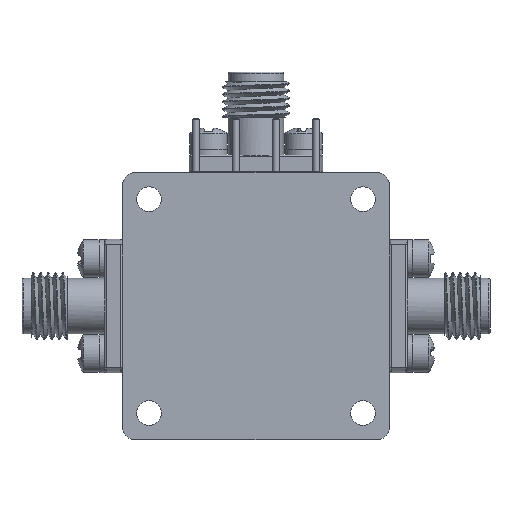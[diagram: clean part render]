
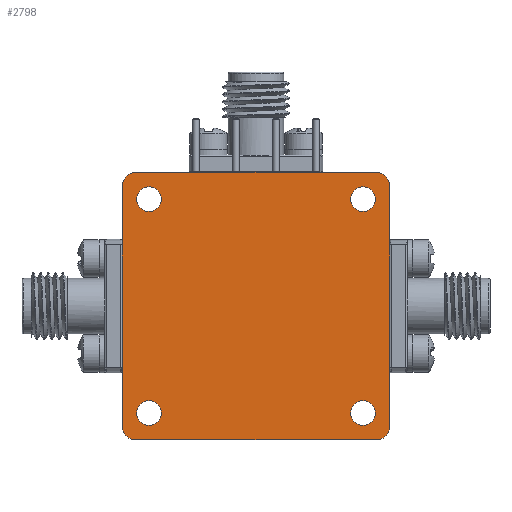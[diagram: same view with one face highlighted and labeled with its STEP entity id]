
A CAD part, front view. The second image highlights one B-rep face of the part: STEP entity #2798.
In plain terms, the highlighted planar face has unit normal (0, -1, 0).
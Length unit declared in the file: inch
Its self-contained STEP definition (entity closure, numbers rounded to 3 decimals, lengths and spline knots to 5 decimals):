
#642 = DIRECTION ( 'NONE',  ( 0., 1., 0. ) ) ;
#819 = DIRECTION ( 'NONE',  ( 0., 0., 1. ) ) ;
#1147 = DIRECTION ( 'NONE',  ( 0., 0., 1. ) ) ;
#1396 = VERTEX_POINT ( 'NONE', #16760 ) ;
#2301 = LINE ( 'NONE', #17656, #24470 ) ;
#2361 = DIRECTION ( 'NONE',  ( 0., 1., 0. ) ) ;
#2798 = ADVANCED_FACE ( 'NONE', ( #49100, #18907, #18424, #38068, #17935 ), #3566, .T. ) ;
#3007 = AXIS2_PLACEMENT_3D ( 'NONE', #24223, #39085, #819 ) ;
#3019 = ORIENTED_EDGE ( 'NONE', *, *, #48424, .F. ) ;
#3097 = CARTESIAN_POINT ( 'NONE',  ( 0.5, 0., 0.45 ) ) ;
#3489 = VERTEX_POINT ( 'NONE', #3097 ) ;
#3566 = PLANE ( 'NONE',  #26148 ) ;
#3833 = DIRECTION ( 'NONE',  ( 0., 1., 0. ) ) ;
#3906 = ORIENTED_EDGE ( 'NONE', *, *, #31472, .F. ) ;
#4818 = ORIENTED_EDGE ( 'NONE', *, *, #46284, .T. ) ;
#5171 = CARTESIAN_POINT ( 'NONE',  ( -0.5, 0., 0.45 ) ) ;
#5475 = DIRECTION ( 'NONE',  ( 0., 0., 1. ) ) ;
#5636 = LINE ( 'NONE', #31840, #48646 ) ;
#7314 = EDGE_CURVE ( 'NONE', #1396, #1396, #16289, .T. ) ;
#7363 = DIRECTION ( 'NONE',  ( 1., 0., 0. ) ) ;
#8321 = AXIS2_PLACEMENT_3D ( 'NONE', #31538, #3833, #19203 ) ;
#9846 = VECTOR ( 'NONE', #7363, 39.37008 ) ;
#10178 = VERTEX_POINT ( 'NONE', #5171 ) ;
#10390 = DIRECTION ( 'NONE',  ( 0., 1., 0. ) ) ;
#10747 = VERTEX_POINT ( 'NONE', #16320 ) ;
#11968 = CARTESIAN_POINT ( 'NONE',  ( -0.4, 0., 0.4 ) ) ;
#13431 = CARTESIAN_POINT ( 'NONE',  ( -0.45, 0., -0.45 ) ) ;
#13518 = EDGE_CURVE ( 'NONE', #40420, #40420, #43653, .T. ) ;
#14128 = VERTEX_POINT ( 'NONE', #28466 ) ;
#15587 = VERTEX_POINT ( 'NONE', #35730 ) ;
#16084 = EDGE_CURVE ( 'NONE', #43986, #15587, #27853, .T. ) ;
#16289 = CIRCLE ( 'NONE', #29177, 0.046 ) ;
#16320 = CARTESIAN_POINT ( 'NONE',  ( 0.45, 0., 0.5 ) ) ;
#16513 = CARTESIAN_POINT ( 'NONE',  ( -0.5, 0., 0.45 ) ) ;
#16557 = ORIENTED_EDGE ( 'NONE', *, *, #39920, .F. ) ;
#16650 = DIRECTION ( 'NONE',  ( 0., 0., -1. ) ) ;
#16760 = CARTESIAN_POINT ( 'NONE',  ( -0.4, 0., 0.446 ) ) ;
#17169 = CARTESIAN_POINT ( 'NONE',  ( 0.45, 0., -0.5 ) ) ;
#17656 = CARTESIAN_POINT ( 'NONE',  ( 0.5, 0., 0.45 ) ) ;
#17935 = FACE_OUTER_BOUND ( 'NONE', #27586, .T. ) ;
#18424 = FACE_BOUND ( 'NONE', #20779, .T. ) ;
#18907 = FACE_BOUND ( 'NONE', #33627, .T. ) ;
#19203 = DIRECTION ( 'NONE',  ( 0., 0., 1. ) ) ;
#19741 = DIRECTION ( 'NONE',  ( 0., 0., -1. ) ) ;
#20596 = ORIENTED_EDGE ( 'NONE', *, *, #7314, .T. ) ;
#20779 = EDGE_LOOP ( 'NONE', ( #4818 ) ) ;
#21097 = VERTEX_POINT ( 'NONE', #17169 ) ;
#21532 = CARTESIAN_POINT ( 'NONE',  ( -0.4, 0., -0.354 ) ) ;
#23432 = ORIENTED_EDGE ( 'NONE', *, *, #13518, .T. ) ;
#23576 = AXIS2_PLACEMENT_3D ( 'NONE', #32814, #29290, #37087 ) ;
#23910 = CIRCLE ( 'NONE', #32878, 0.05 ) ;
#23911 = EDGE_CURVE ( 'NONE', #21097, #43986, #5636, .T. ) ;
#24199 = CARTESIAN_POINT ( 'NONE',  ( -0.45, 0., 0.45 ) ) ;
#24223 = CARTESIAN_POINT ( 'NONE',  ( 0.4, 0., 0.4 ) ) ;
#24470 = VECTOR ( 'NONE', #19741, 39.37008 ) ;
#24983 = DIRECTION ( 'NONE',  ( 0., 0., -1. ) ) ;
#26148 = AXIS2_PLACEMENT_3D ( 'NONE', #41099, #34054, #49343 ) ;
#27220 = AXIS2_PLACEMENT_3D ( 'NONE', #36677, #32924, #5475 ) ;
#27343 = EDGE_CURVE ( 'NONE', #3489, #40090, #2301, .T. ) ;
#27359 = DIRECTION ( 'NONE',  ( 0., 0., 1. ) ) ;
#27586 = EDGE_LOOP ( 'NONE', ( #16557, #34772, #32985, #34949, #3906, #44716, #3019, #37438 ) ) ;
#27853 = CIRCLE ( 'NONE', #42322, 0.05 ) ;
#28466 = CARTESIAN_POINT ( 'NONE',  ( 0.4, 0., -0.354 ) ) ;
#29177 = AXIS2_PLACEMENT_3D ( 'NONE', #11968, #642, #27359 ) ;
#29290 = DIRECTION ( 'NONE',  ( 0., 1., 0. ) ) ;
#30369 = CARTESIAN_POINT ( 'NONE',  ( -0.45, 0., -0.5 ) ) ;
#30799 = CARTESIAN_POINT ( 'NONE',  ( -0.45, 0., 0.5 ) ) ;
#31472 = EDGE_CURVE ( 'NONE', #40090, #21097, #23910, .T. ) ;
#31538 = CARTESIAN_POINT ( 'NONE',  ( 0.4, 0., -0.4 ) ) ;
#31822 = AXIS2_PLACEMENT_3D ( 'NONE', #24199, #35791, #16650 ) ;
#31840 = CARTESIAN_POINT ( 'NONE',  ( -0.45, 0., -0.5 ) ) ;
#32211 = EDGE_CURVE ( 'NONE', #15587, #10178, #36157, .T. ) ;
#32814 = CARTESIAN_POINT ( 'NONE',  ( -0.4, 0., -0.4 ) ) ;
#32878 = AXIS2_PLACEMENT_3D ( 'NONE', #41356, #10390, #34319 ) ;
#32924 = DIRECTION ( 'NONE',  ( 0., 1., 0. ) ) ;
#32985 = ORIENTED_EDGE ( 'NONE', *, *, #16084, .F. ) ;
#33627 = EDGE_LOOP ( 'NONE', ( #36931 ) ) ;
#34054 = DIRECTION ( 'NONE',  ( 0., -1., 0. ) ) ;
#34319 = DIRECTION ( 'NONE',  ( 0., 0., -1. ) ) ;
#34772 = ORIENTED_EDGE ( 'NONE', *, *, #32211, .F. ) ;
#34949 = ORIENTED_EDGE ( 'NONE', *, *, #23911, .F. ) ;
#35131 = EDGE_LOOP ( 'NONE', ( #23432 ) ) ;
#35730 = CARTESIAN_POINT ( 'NONE',  ( -0.5, 0., -0.45 ) ) ;
#35791 = DIRECTION ( 'NONE',  ( 0., 1., 0. ) ) ;
#36157 = LINE ( 'NONE', #16513, #49683 ) ;
#36511 = CARTESIAN_POINT ( 'NONE',  ( 0.4, 0., 0.446 ) ) ;
#36677 = CARTESIAN_POINT ( 'NONE',  ( 0.45, 0., 0.45 ) ) ;
#36931 = ORIENTED_EDGE ( 'NONE', *, *, #43519, .T. ) ;
#37087 = DIRECTION ( 'NONE',  ( 0., 0., 1. ) ) ;
#37438 = ORIENTED_EDGE ( 'NONE', *, *, #40923, .F. ) ;
#37802 = CARTESIAN_POINT ( 'NONE',  ( 0.5, 0., -0.45 ) ) ;
#38068 = FACE_BOUND ( 'NONE', #40722, .T. ) ;
#39085 = DIRECTION ( 'NONE',  ( 0., 1., 0. ) ) ;
#39920 = EDGE_CURVE ( 'NONE', #10178, #46508, #44660, .T. ) ;
#40090 = VERTEX_POINT ( 'NONE', #37802 ) ;
#40420 = VERTEX_POINT ( 'NONE', #21532 ) ;
#40722 = EDGE_LOOP ( 'NONE', ( #20596 ) ) ;
#40923 = EDGE_CURVE ( 'NONE', #46508, #10747, #46606, .T. ) ;
#41099 = CARTESIAN_POINT ( 'NONE',  ( -0.45, 0., 0.45 ) ) ;
#41356 = CARTESIAN_POINT ( 'NONE',  ( 0.45, 0., -0.45 ) ) ;
#42322 = AXIS2_PLACEMENT_3D ( 'NONE', #13431, #2361, #24983 ) ;
#43519 = EDGE_CURVE ( 'NONE', #14128, #14128, #46910, .T. ) ;
#43653 = CIRCLE ( 'NONE', #23576, 0.046 ) ;
#43986 = VERTEX_POINT ( 'NONE', #30369 ) ;
#44355 = CARTESIAN_POINT ( 'NONE',  ( -0.45, 0., 0.5 ) ) ;
#44660 = CIRCLE ( 'NONE', #31822, 0.05 ) ;
#44716 = ORIENTED_EDGE ( 'NONE', *, *, #27343, .F. ) ;
#44810 = CIRCLE ( 'NONE', #3007, 0.046 ) ;
#46284 = EDGE_CURVE ( 'NONE', #48324, #48324, #44810, .T. ) ;
#46508 = VERTEX_POINT ( 'NONE', #44355 ) ;
#46606 = LINE ( 'NONE', #30799, #9846 ) ;
#46910 = CIRCLE ( 'NONE', #8321, 0.046 ) ;
#46914 = DIRECTION ( 'NONE',  ( -1., 0., 0. ) ) ;
#48324 = VERTEX_POINT ( 'NONE', #36511 ) ;
#48424 = EDGE_CURVE ( 'NONE', #10747, #3489, #48883, .T. ) ;
#48646 = VECTOR ( 'NONE', #46914, 39.37008 ) ;
#48883 = CIRCLE ( 'NONE', #27220, 0.05 ) ;
#49100 = FACE_BOUND ( 'NONE', #35131, .T. ) ;
#49343 = DIRECTION ( 'NONE',  ( 0., 0., -1. ) ) ;
#49683 = VECTOR ( 'NONE', #1147, 39.37008 ) ;
